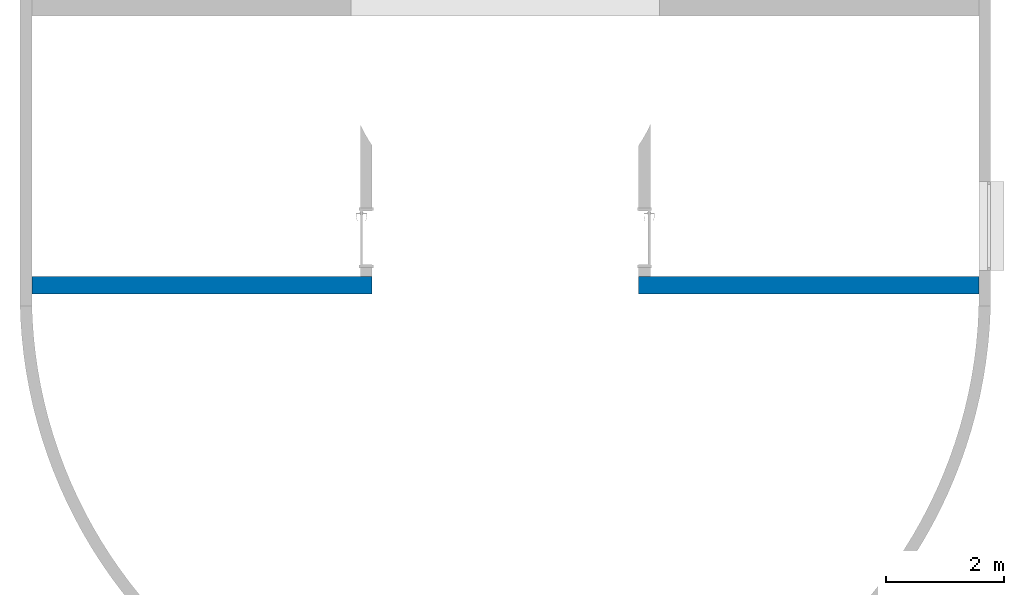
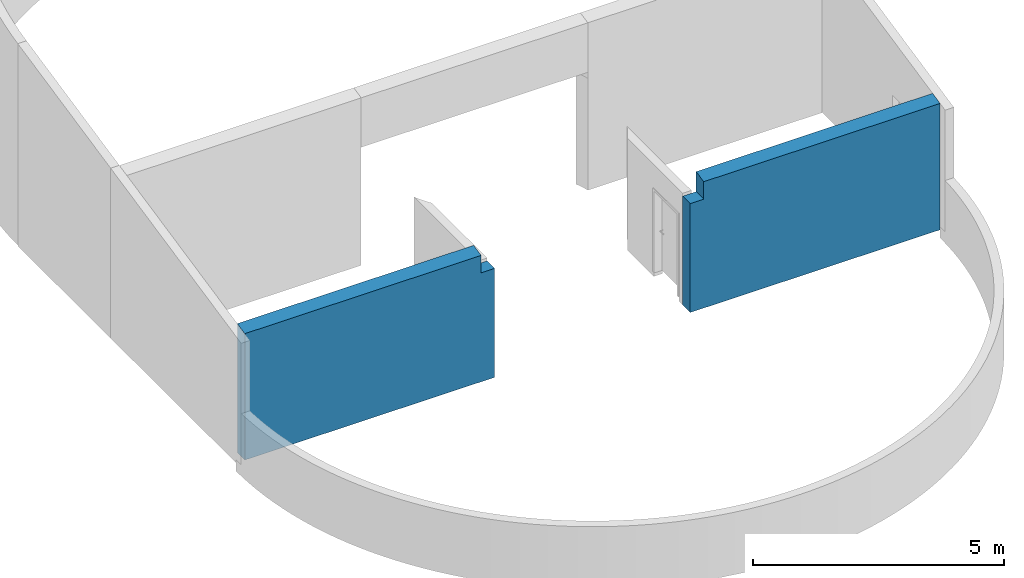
# One storey, part 4 of 7: 1 wall, 1 opening.
"""IFC4 building model written with IfcOpenShell, lengths in millimetres."""

from ifc_helpers import new_model, entity, si_unit, converted_unit, derived_unit, direction, frame, origin_with_axes, place, context, subcontext, project, spatial, polygons, material, constituent, constituent_set, type_object, element, save


model = new_model("IFC4")

# Units and contexts
model_context = context("Model", 3, precision=0.01, world=origin_with_axes(), true_north=direction((0.0, 1.0)))
body_context = subcontext(model_context, "Body", "Model", "MODEL_VIEW")
ifc_project = project(units=[si_unit("LENGTHUNIT", "METRE", prefix="MILLI"), si_unit("AREAUNIT", "SQUARE_METRE"), si_unit("VOLUMEUNIT", "CUBIC_METRE"), converted_unit("PLANEANGLEUNIT", "DEGREE", entity("IfcPlaneAngleMeasure", 0.0174532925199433), si_unit("PLANEANGLEUNIT", "RADIAN"), dimensions=[0, 0, 0, 0, 0, 0, 0]), converted_unit("TIMEUNIT", "Year", entity("IfcTimeMeasure", 31557600.0), si_unit("TIMEUNIT", "SECOND"), dimensions=[0, 0, 1, 0, 0, 0, 0]), si_unit("MASSUNIT", "GRAM", prefix="KILO"), si_unit("THERMODYNAMICTEMPERATUREUNIT", "DEGREE_CELSIUS"), si_unit("LUMINOUSINTENSITYUNIT", "LUMEN"), si_unit("ENERGYUNIT", "JOULE", prefix="MEGA"), derived_unit("THERMALCONDUCTANCEUNIT", [(si_unit("POWERUNIT", "WATT"), 1), (si_unit("LENGTHUNIT", "METRE"), -1), (si_unit("THERMODYNAMICTEMPERATUREUNIT", "KELVIN"), -1)]), derived_unit("SPECIFICHEATCAPACITYUNIT", [(si_unit("ENERGYUNIT", "JOULE"), 1), (si_unit("MASSUNIT", "GRAM", prefix="KILO"), -1), (si_unit("THERMODYNAMICTEMPERATUREUNIT", "KELVIN"), -1)]), derived_unit("MASSDENSITYUNIT", [(si_unit("MASSUNIT", "GRAM", prefix="KILO"), 1), (si_unit("VOLUMEUNIT", "CUBIC_METRE"), -1)])], contexts=[model_context])

# Site, building, storey
site_placement = place(None, origin_with_axes())
site = spatial("IfcSite", under=ifc_project, at=site_placement, Name="Exteriér", CompositionType="ELEMENT")
building_placement = place(site_placement, origin_with_axes())
building = spatial("IfcBuilding", under=site, at=building_placement, Name="Univerzitní lezecké centrum", CompositionType="ELEMENT")
storey_placement = place(building_placement, frame((0.0, 0.0, 9600.000000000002), z_axis=(0.0, 0.0, 1.0), x_axis=(1.0, 0.0, 0.0)))
storey = spatial("IfcBuildingStorey", under=building, at=storey_placement, Name="4.NP", CompositionType="ELEMENT", Elevation=9600.0)

# Wall, opening
ifc_material = material(Name="Beton vyztužený - vnější svislé kce")
ifc_constituent = constituent(ifc_material, Name="Beton vyztužený - vnější svislé kce")
ifc_constituent_set = constituent_set(constituents=[ifc_constituent], Name="!Vnější betonová stěna 300 mm")
wall_type = type_object("IfcWallType", Name="!Vnější betonová stěna 300 mm 300", PredefinedType="NOTDEFINED")
wall_placement = place(storey_placement, frame((-5550.148351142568, 0.0, -120.000000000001), z_axis=(0.0, 0.0, 1.0), x_axis=(1.0, 0.0, 0.0)))
wall = element("IfcWall", 1, at=wall_placement, inside=storey, type_object=wall_type, material=ifc_constituent_set, Name="St03", PredefinedType="NOTDEFINED", context=body_context, shape_type="Tessellation", body=[
    polygons([(5439.900487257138, -199.9999613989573, 3095.14396744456), (5439.900487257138, -99.99996139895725, 3116.39961540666), (5439.900487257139, 3.8601042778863e-05, 3137.65527157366), (0.0, 0.0, 3137.65527157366), (0.0, -299.9999999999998, 3073.888303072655), (5439.900487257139, -299.9999613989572, 3073.888303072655), (5439.900487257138, -199.9999613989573, 2870.000000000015), (5439.900487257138, -99.99996139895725, 2870.000000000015), (5439.900487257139, 3.8601042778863e-05, 2870.000000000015), (5439.900487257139, -299.9999613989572, 2870.000000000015), (5439.900487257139, 3.860104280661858e-05, 2650.000000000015), (5749.900487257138, 3.860104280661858e-05, 2650.000000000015), (5749.900487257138, 0.0, 120.000000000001), (5749.900579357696, 0.0, 0.5000000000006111), (5749.900579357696, 0.0, 0.0), (0.0, 0.0, 0.0), (0.0, -299.9999999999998, 0.0), (5749.900487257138, -299.9999613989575, 2650.000000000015), (5439.900487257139, -299.9999613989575, 2650.000000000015), (5749.900579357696, -300.0000000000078, 0.0), (5749.900579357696, -300.0000000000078, 0.5000000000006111), (5749.900487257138, -300.0000000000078, 120.000000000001)], [[[1, 2, 3, 4, 5, 6]], [[7, 8, 9, 3, 2, 1, 6, 10]], [[4, 3, 9, 11, 12, 13, 14, 15, 16]], [[4, 16, 17, 5]], [[18, 19, 10, 6, 5, 17, 20, 21, 22]], [[8, 7, 10, 19, 11, 9]], [[19, 18, 12, 11]], [[22, 13, 12, 18]], [[21, 14, 13, 22]], [[15, 14, 21, 20]], [[15, 20, 17, 16]]], closed=True),
    polygons([(10559.90048725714, -99.99996139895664, 2870.000000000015), (10559.90048725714, -199.9999613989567, 2870.000000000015), (10559.90048725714, -299.9999613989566, 2870.000000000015), (10559.90048725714, -299.9999613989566, 3073.888303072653), (10559.90048725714, -199.9999613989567, 3095.14396744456), (10559.90048725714, -99.99996139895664, 3116.39961540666), (10559.90048725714, 3.860104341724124e-05, 3137.655271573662), (10559.90048725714, 3.860104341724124e-05, 2870.000000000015), (10559.90048725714, 3.860104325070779e-05, 2650.000000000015), (10559.90048725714, -299.9999613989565, 2650.000000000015), (15999.99999999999, -299.9999999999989, 0.0), (15999.99999999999, -299.9999999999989, 3073.888303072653), (10249.90048725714, -299.9999613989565, 2650.000000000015), (10249.90048725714, -299.9999613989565, 2619.999980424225), (10249.90048725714, -300.0000000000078, 120.000000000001), (10249.90057935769, -300.0000000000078, 0.5000000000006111), (10249.90057935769, -300.0000000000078, 0.0), (15999.99999999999, 0.0, 3137.655271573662), (15999.99999999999, 0.0, 0.0), (10249.90057935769, 0.0, 0.0), (10249.90057935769, 0.0, 0.5000000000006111), (10249.90048725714, 0.0, 120.000000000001), (10249.90048725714, 3.860104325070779e-05, 2619.999980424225), (10249.90048725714, 3.860104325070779e-05, 2650.000000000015)], [[[1, 2, 3, 4, 5, 6, 7, 8]], [[2, 1, 8, 9, 10, 3]], [[11, 12, 4, 3, 10, 13, 14, 15, 16, 17]], [[6, 5, 4, 12, 18, 7]], [[9, 8, 7, 18, 19, 20, 21, 22, 23, 24]], [[9, 24, 13, 10]], [[12, 11, 19, 18]], [[24, 23, 14, 13]], [[15, 14, 23, 22]], [[21, 16, 15, 22]], [[16, 21, 20, 17]], [[17, 20, 19, 11]]], closed=True),
])
opening_placement = place(wall_placement, frame((7999.900487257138, 0.0, 120.000000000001), z_axis=(0.0, 0.0, 1.0), x_axis=(1.0, 0.0, 0.0)))
element("IfcOpeningElement", 2, at=opening_placement, cuts=wall, context=body_context, identifier="Reference", shape_type="Tessellation", body=[
    polygons([(-2250.0, -301.0000000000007, 2570.0), (-2250.0, -301.0000000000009, 0.0), (2250.0, -301.0000000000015, 0.0), (2250.0, -301.0000000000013, 2570.0), (-2250.0, 1.000000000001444, 2570.0), (-2250.0, 1.000000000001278, 0.0), (2250.0, 1.000000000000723, 0.0), (2250.0, 1.000000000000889, 2570.0)], [[[1, 2, 3, 4]], [[5, 6, 2, 1]], [[6, 7, 3, 2]], [[7, 8, 4, 3]], [[8, 5, 1, 4]], [[7, 6, 5, 8]]], closed=True),
])

save(model, "model.ifc")
